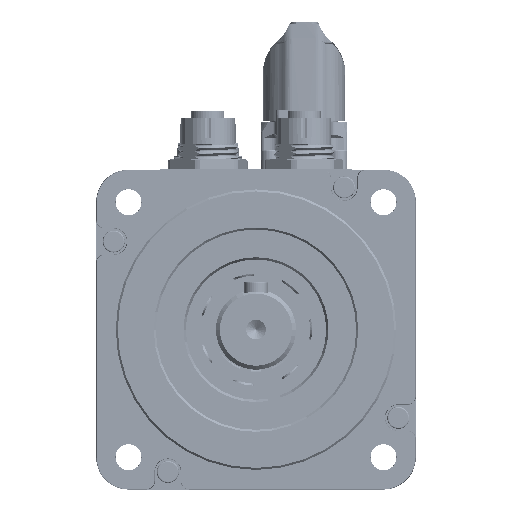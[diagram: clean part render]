
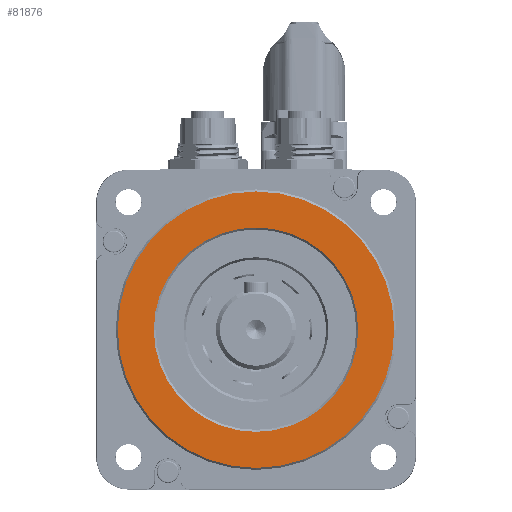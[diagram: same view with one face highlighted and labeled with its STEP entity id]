
A CAD part, front view. The second image highlights one B-rep face of the part: STEP entity #81876.
In plain terms, the highlighted planar face has unit normal (0, -1, 0).
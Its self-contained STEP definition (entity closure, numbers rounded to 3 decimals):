
#17527=PLANE('',#119134);
#20977=ORIENTED_EDGE('',*,*,#44642,.T.);
#20978=ORIENTED_EDGE('',*,*,#44641,.F.);
#44641=EDGE_CURVE('',#56855,#56855,#64675,.T.);
#44642=EDGE_CURVE('',#56856,#56856,#64676,.T.);
#56855=VERTEX_POINT('',#152149);
#56856=VERTEX_POINT('',#152152);
#64675=CIRCLE('',#118868,25.5);
#64676=CIRCLE('',#118870,34.5);
#68712=EDGE_LOOP('',(#20977));
#68713=EDGE_LOOP('',(#20978));
#75152=FACE_BOUND('',#68712,.T.);
#75153=FACE_BOUND('',#68713,.T.);
#81876=ADVANCED_FACE('',(#75152,#75153),#17527,.T.);
#118868=AXIS2_PLACEMENT_3D('',#152148,#128109,#128110);
#118870=AXIS2_PLACEMENT_3D('',#152151,#128113,#128114);
#119134=AXIS2_PLACEMENT_3D('',#153650,#128793,#128794);
#128109=DIRECTION('',(0.,-1.,0.));
#128110=DIRECTION('',(0.,0.,-1.));
#128113=DIRECTION('',(0.,-1.,0.));
#128114=DIRECTION('',(0.,0.,-1.));
#128793=DIRECTION('',(0.,-1.,0.));
#128794=DIRECTION('',(0.,0.,-1.));
#152148=CARTESIAN_POINT('',(0.,-1.36,0.));
#152149=CARTESIAN_POINT('',(0.,-1.36,-25.5));
#152151=CARTESIAN_POINT('',(0.,-1.36,0.));
#152152=CARTESIAN_POINT('',(0.,-1.36,-34.5));
#153650=CARTESIAN_POINT('',(0.,-1.36,25.));
